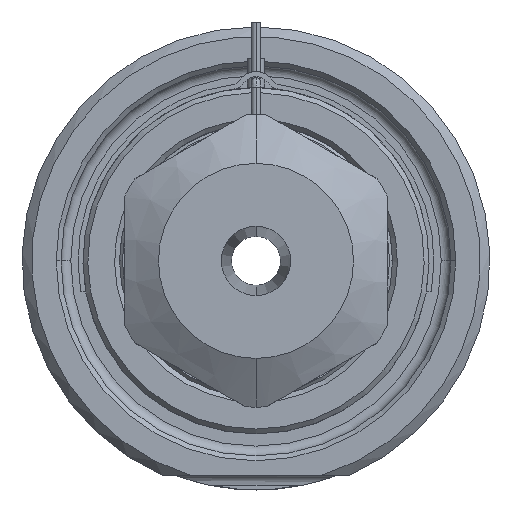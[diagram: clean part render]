
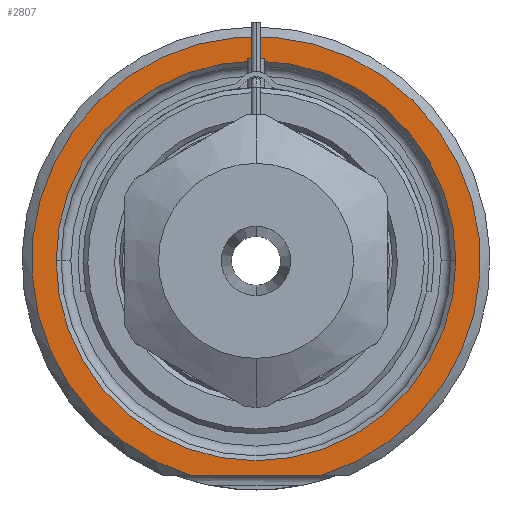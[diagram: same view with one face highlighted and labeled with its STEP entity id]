
A CAD part, front view. The second image highlights one B-rep face of the part: STEP entity #2807.
In plain terms, the highlighted planar face has unit normal (0, -1, 0).
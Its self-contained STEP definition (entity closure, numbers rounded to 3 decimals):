
#1=DIRECTION('',(1.,0.,0.));
#2=VECTOR('',#1,13.416);
#3=CARTESIAN_POINT('',(-6.708,0.,-22.));
#4=LINE('',#3,#2);
#5=CARTESIAN_POINT('',(0.,0.,0.));
#6=DIRECTION('',(0.,1.,0.));
#7=DIRECTION('',(-1.,0.,0.));
#8=AXIS2_PLACEMENT_3D('',#5,#6,#7);
#10=CARTESIAN_POINT('',(0.,0.,0.));
#11=DIRECTION('',(0.,1.,0.));
#12=DIRECTION('',(1.,0.,0.));
#13=AXIS2_PLACEMENT_3D('',#10,#11,#12);
#121=CARTESIAN_POINT('',(0.,0.,0.));
#122=DIRECTION('',(0.,-1.,0.));
#123=DIRECTION('',(0.292,0.,-0.957));
#124=AXIS2_PLACEMENT_3D('',#121,#122,#123);
#2321=CARTESIAN_POINT('',(-20.5,0.,0.));
#2322=CARTESIAN_POINT('',(20.5,0.,0.));
#2323=VERTEX_POINT('',#2321);
#2324=VERTEX_POINT('',#2322);
#2361=CARTESIAN_POINT('',(-6.708,0.,-22.));
#2362=CARTESIAN_POINT('',(6.708,0.,-22.));
#2363=VERTEX_POINT('',#2361);
#2364=VERTEX_POINT('',#2362);
#2790=CARTESIAN_POINT('',(0.,0.,0.));
#2791=DIRECTION('',(0.,-1.,0.));
#2792=DIRECTION('',(1.,0.,0.));
#2793=AXIS2_PLACEMENT_3D('',#2790,#2791,#2792);
#2794=PLANE('',#2793);
#2796=ORIENTED_EDGE('',*,*,#2795,.F.);
#2798=ORIENTED_EDGE('',*,*,#2797,.F.);
#2799=EDGE_LOOP('',(#2796,#2798));
#2800=FACE_OUTER_BOUND('',#2799,.F.);
#2802=ORIENTED_EDGE('',*,*,#2801,.F.);
#2804=ORIENTED_EDGE('',*,*,#2803,.F.);
#2805=EDGE_LOOP('',(#2802,#2804));
#2806=FACE_BOUND('',#2805,.F.);
#2807=ADVANCED_FACE('',(#2800,#2806),#2794,.T.);
#9=CIRCLE('',#8,20.5);
#14=CIRCLE('',#13,20.5);
#125=CIRCLE('',#124,23.);
#2795=EDGE_CURVE('',#2363,#2364,#4,.T.);
#2797=EDGE_CURVE('',#2364,#2363,#125,.T.);
#2801=EDGE_CURVE('',#2323,#2324,#9,.T.);
#2803=EDGE_CURVE('',#2324,#2323,#14,.T.);
